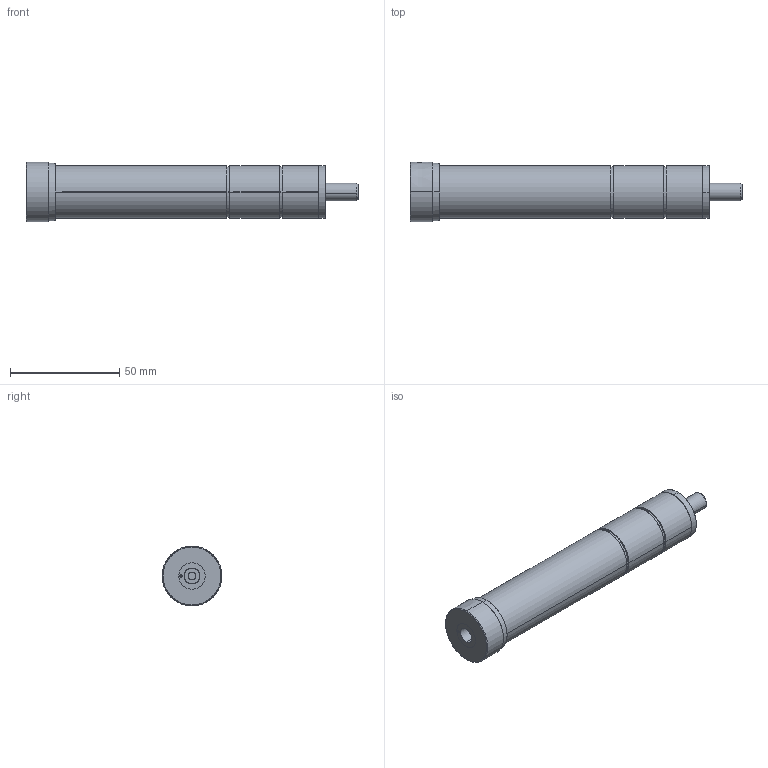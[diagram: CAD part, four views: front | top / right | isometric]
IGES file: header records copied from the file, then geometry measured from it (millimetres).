
Start section: SolidWorks IGES file using analytic representation for surfaces
Global section: file name: D:\IGS跡宒\HR15.IGS,1; native system: 5HSolidWorks 2013; preprocessor: SolidWorks 2013; author: Administrator; date: 160406.153841; units: inch
Bounding box: 152 x 27.3 x 27.3 mm (x, y, z)
Surface area: 14922.3 mm2 (no closed solid volume)
Topology: 0 solids, 0 shells, 52 faces, 1116 edges, 1114 vertices
Faces by surface type: revolution 38, bspline 14
